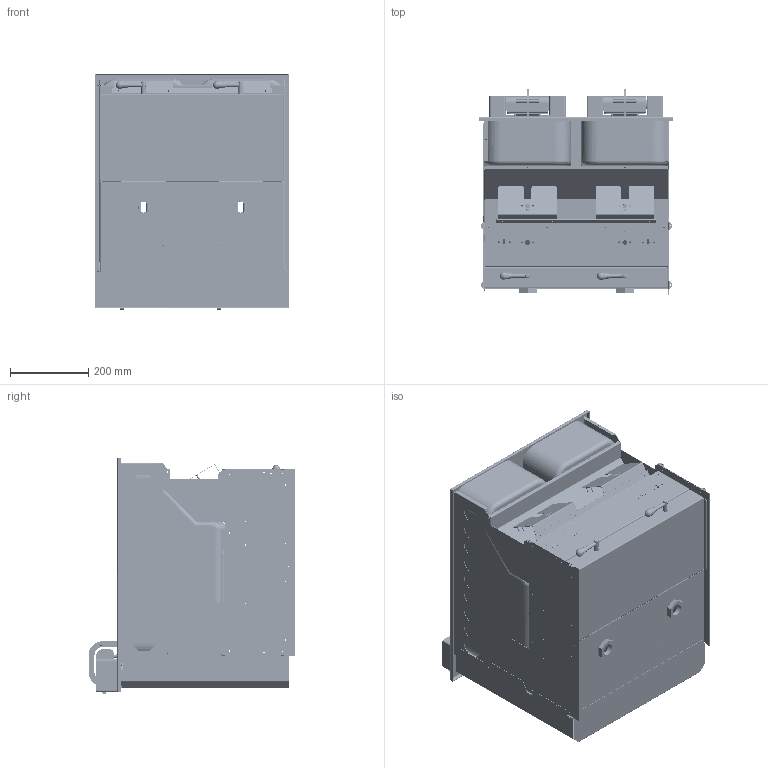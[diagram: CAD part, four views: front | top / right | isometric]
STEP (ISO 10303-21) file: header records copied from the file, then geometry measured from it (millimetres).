
FILE_DESCRIPTION (( 'STEP AP203' ), '1' );
FILE_NAME ('CORE2525-E.stp', '2025-04-25T09:08:57', ( '' ), ( '' ), 'SwSTEP 2.0', 'SolidWorks 2024', '' );
FILE_SCHEMA (( 'CONFIG_CONTROL_DESIGN' ));
Products named in the file (1): CORE2525-E
Bounding box: 496 x 529.53 x 605.03 mm (x, y, z)
Volume: 4906933 mm3; surface area: 6502073.5 mm2
Topology: 146 solids, 146 shells, 6757 faces, 16923 edges, 10498 vertices
Faces by surface type: plane 3580, cylinder 2601, torus 276, cone 162, bspline 116, sphere 22
Entity records: 208382 total; most frequent: CARTESIAN_POINT 43035, DIRECTION 35555, ORIENTED_EDGE 33766, EDGE_CURVE 16883, AXIS2_PLACEMENT_3D 12596, VERTEX_POINT 10498, LINE 10363, VECTOR 10363
